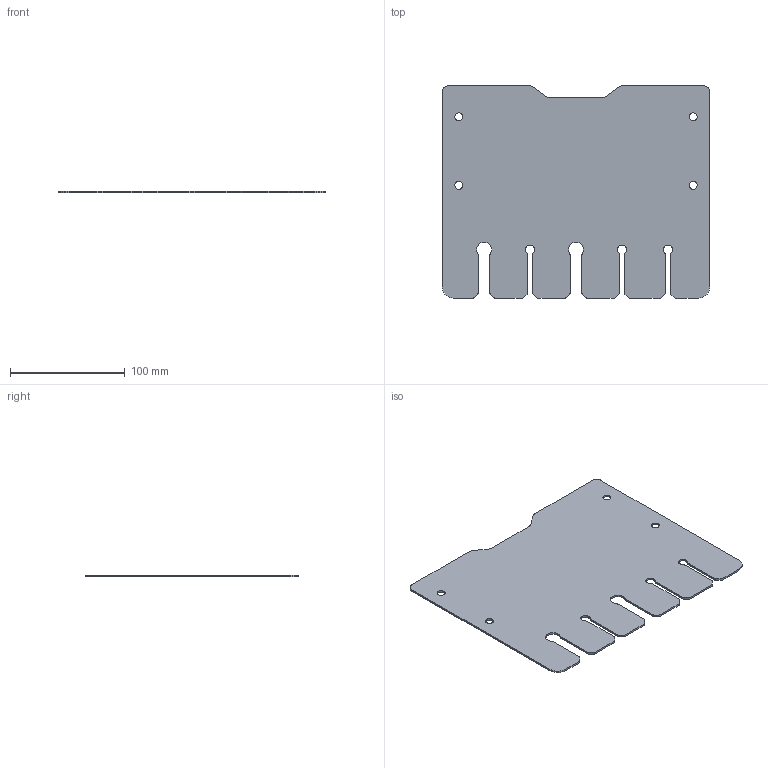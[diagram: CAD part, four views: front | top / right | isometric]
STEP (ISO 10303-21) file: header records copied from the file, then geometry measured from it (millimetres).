
FILE_DESCRIPTION (( 'STEP AP214' ), '1' );
FILE_NAME ('MONO_038-p102_02 (FLAT PATTERN).STEP', '2026-03-17T07:26:11', ( '' ), ( '' ), 'SwSTEP 2.0', 'SolidWorks 2024', '' );
FILE_SCHEMA (( 'AUTOMOTIVE_DESIGN' ));
Length unit declared in the file: millimetre
Products named in the file (1): MONO_038-p102_02 (FLAT PATTERN)
Bounding box: 232.8 x 184.76 x 1.6 mm (x, y, z)
Volume: 64771.5 mm3; surface area: 83146.3 mm2
Topology: 1 solids, 1 shells, 82 faces, 240 edges, 160 vertices
Faces by surface type: cylinder 47, plane 35
Full cylindrical faces by diameter (mm): 7 x4
Entity records: 2777 total; most frequent: DIRECTION 496, CARTESIAN_POINT 479, ORIENTED_EDGE 472, EDGE_CURVE 236, AXIS2_PLACEMENT_3D 177, VERTEX_POINT 160, LINE 142, VECTOR 142
